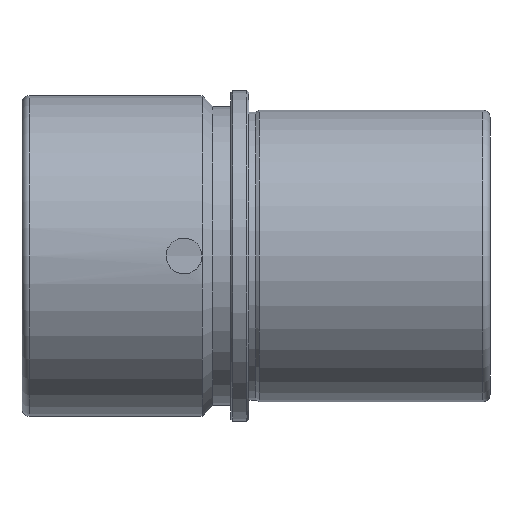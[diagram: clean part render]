
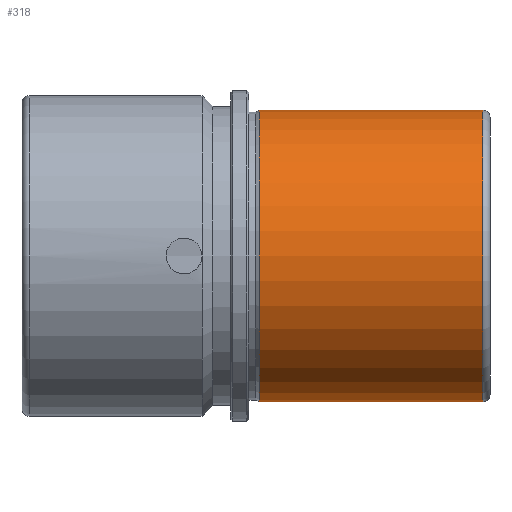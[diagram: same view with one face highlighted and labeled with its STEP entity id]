
A CAD part, front view. The second image highlights one B-rep face of the part: STEP entity #318.
In plain terms, the highlighted cylindrical face has radius 40.5 mm (diameter 81 mm), a full revolution.
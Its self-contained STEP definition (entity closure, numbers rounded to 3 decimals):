
#45=CIRCLE('',#372,40.5);
#46=CIRCLE('',#373,40.5);
#47=CIRCLE('',#375,40.5);
#65=FACE_OUTER_BOUND('',#86,.T.);
#86=EDGE_LOOP('',(#245,#246,#247,#248,#249));
#102=LINE('',#622,#114);
#114=VECTOR('',#453,40.5);
#142=VERTEX_POINT('',#615);
#143=VERTEX_POINT('',#617);
#144=VERTEX_POINT('',#621);
#177=EDGE_CURVE('',#142,#143,#45,.T.);
#178=EDGE_CURVE('',#143,#142,#46,.T.);
#179=EDGE_CURVE('',#143,#144,#102,.T.);
#180=EDGE_CURVE('',#144,#144,#47,.T.);
#245=ORIENTED_EDGE('',*,*,#178,.F.);
#246=ORIENTED_EDGE('',*,*,#179,.T.);
#247=ORIENTED_EDGE('',*,*,#180,.T.);
#248=ORIENTED_EDGE('',*,*,#179,.F.);
#249=ORIENTED_EDGE('',*,*,#177,.F.);
#285=CYLINDRICAL_SURFACE('',#374,40.5);
#318=ADVANCED_FACE('',(#65),#285,.T.);
#372=AXIS2_PLACEMENT_3D('',#618,#447,#448);
#373=AXIS2_PLACEMENT_3D('',#619,#449,#450);
#374=AXIS2_PLACEMENT_3D('',#620,#451,#452);
#375=AXIS2_PLACEMENT_3D('',#623,#454,#455);
#447=DIRECTION('center_axis',(1.,0.,0.));
#448=DIRECTION('ref_axis',(0.,-1.,0.));
#449=DIRECTION('center_axis',(1.,0.,0.));
#450=DIRECTION('ref_axis',(0.,-1.,0.));
#451=DIRECTION('center_axis',(1.,0.,0.));
#452=DIRECTION('ref_axis',(0.,1.,0.));
#453=DIRECTION('',(-1.,0.,0.));
#454=DIRECTION('center_axis',(1.,0.,0.));
#455=DIRECTION('ref_axis',(0.,0.,-1.));
#615=CARTESIAN_POINT('',(128.,0.,40.5));
#617=CARTESIAN_POINT('',(128.,-40.5,0.));
#618=CARTESIAN_POINT('Origin',(128.,0.,0.));
#619=CARTESIAN_POINT('Origin',(128.,0.,0.));
#620=CARTESIAN_POINT('Origin',(97.95,0.,0.));
#621=CARTESIAN_POINT('',(65.9,-40.5,0.));
#622=CARTESIAN_POINT('',(97.95,-40.5,0.));
#623=CARTESIAN_POINT('Origin',(65.9,0.,0.));
